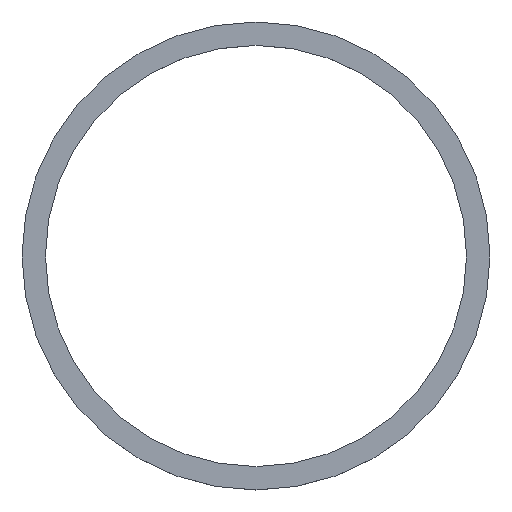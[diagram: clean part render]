
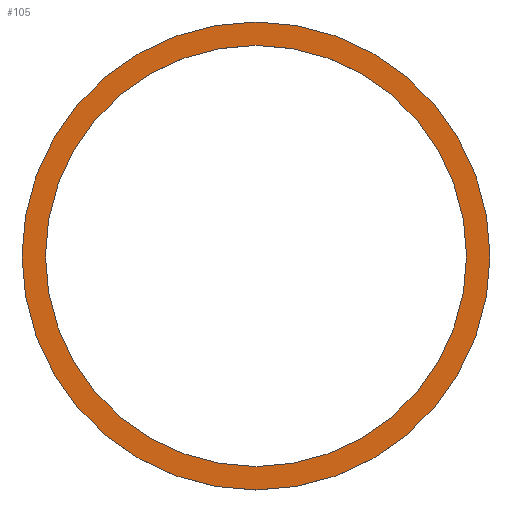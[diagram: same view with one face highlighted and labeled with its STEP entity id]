
A CAD part, top view. The second image highlights one B-rep face of the part: STEP entity #105.
In plain terms, the highlighted planar face has unit normal (0, 0, 1).
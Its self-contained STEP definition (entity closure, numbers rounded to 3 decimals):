
#21 = EDGE_CURVE('',#22,#22,#24,.T.);
#22 = VERTEX_POINT('',#23);
#23 = CARTESIAN_POINT('',(2.5,0.,2.7));
#24 = SURFACE_CURVE('',#25,(#30,#42),.PCURVE_S1.);
#25 = CIRCLE('',#26,2.5);
#26 = AXIS2_PLACEMENT_3D('',#27,#28,#29);
#27 = CARTESIAN_POINT('',(0.,0.,2.7));
#28 = DIRECTION('',(0.,0.,1.));
#29 = DIRECTION('',(1.,0.,-0.));
#30 = PCURVE('',#31,#36);
#31 = CYLINDRICAL_SURFACE('',#32,2.5);
#32 = AXIS2_PLACEMENT_3D('',#33,#34,#35);
#33 = CARTESIAN_POINT('',(0.,0.,2.5));
#34 = DIRECTION('',(0.,0.,1.));
#35 = DIRECTION('',(1.,0.,-0.));
#36 = DEFINITIONAL_REPRESENTATION('',(#37),#41);
#37 = LINE('',#38,#39);
#38 = CARTESIAN_POINT('',(0.,0.2));
#39 = VECTOR('',#40,1.);
#40 = DIRECTION('',(1.,0.));
#41 = ( GEOMETRIC_REPRESENTATION_CONTEXT(2) 
PARAMETRIC_REPRESENTATION_CONTEXT() REPRESENTATION_CONTEXT('2D SPACE',''
  ) );
#42 = PCURVE('',#43,#48);
#43 = PLANE('',#44);
#44 = AXIS2_PLACEMENT_3D('',#45,#46,#47);
#45 = CARTESIAN_POINT('',(0.,0.,2.7));
#46 = DIRECTION('',(0.,0.,1.));
#47 = DIRECTION('',(1.,0.,-0.));
#48 = DEFINITIONAL_REPRESENTATION('',(#49),#53);
#49 = CIRCLE('',#50,2.5);
#50 = AXIS2_PLACEMENT_2D('',#51,#52);
#51 = CARTESIAN_POINT('',(0.,0.));
#52 = DIRECTION('',(1.,0.));
#53 = ( GEOMETRIC_REPRESENTATION_CONTEXT(2) 
PARAMETRIC_REPRESENTATION_CONTEXT() REPRESENTATION_CONTEXT('2D SPACE',''
  ) );
#105 = ADVANCED_FACE('',(#106,#109),#43,.T.);
#106 = FACE_BOUND('',#107,.T.);
#107 = EDGE_LOOP('',(#108));
#108 = ORIENTED_EDGE('',*,*,#21,.T.);
#109 = FACE_BOUND('',#110,.T.);
#110 = EDGE_LOOP('',(#111));
#111 = ORIENTED_EDGE('',*,*,#112,.F.);
#112 = EDGE_CURVE('',#113,#113,#115,.T.);
#113 = VERTEX_POINT('',#114);
#114 = CARTESIAN_POINT('',(2.25,0.,2.7));
#115 = SURFACE_CURVE('',#116,(#121,#128),.PCURVE_S1.);
#116 = CIRCLE('',#117,2.25);
#117 = AXIS2_PLACEMENT_3D('',#118,#119,#120);
#118 = CARTESIAN_POINT('',(0.,0.,2.7));
#119 = DIRECTION('',(0.,0.,1.));
#120 = DIRECTION('',(1.,0.,-0.));
#121 = PCURVE('',#43,#122);
#122 = DEFINITIONAL_REPRESENTATION('',(#123),#127);
#123 = CIRCLE('',#124,2.25);
#124 = AXIS2_PLACEMENT_2D('',#125,#126);
#125 = CARTESIAN_POINT('',(0.,0.));
#126 = DIRECTION('',(1.,0.));
#127 = ( GEOMETRIC_REPRESENTATION_CONTEXT(2) 
PARAMETRIC_REPRESENTATION_CONTEXT() REPRESENTATION_CONTEXT('2D SPACE',''
  ) );
#128 = PCURVE('',#129,#134);
#129 = CYLINDRICAL_SURFACE('',#130,2.25);
#130 = AXIS2_PLACEMENT_3D('',#131,#132,#133);
#131 = CARTESIAN_POINT('',(0.,0.,2.49));
#132 = DIRECTION('',(0.,0.,1.));
#133 = DIRECTION('',(1.,0.,-0.));
#134 = DEFINITIONAL_REPRESENTATION('',(#135),#139);
#135 = LINE('',#136,#137);
#136 = CARTESIAN_POINT('',(0.,0.21));
#137 = VECTOR('',#138,1.);
#138 = DIRECTION('',(1.,0.));
#139 = ( GEOMETRIC_REPRESENTATION_CONTEXT(2) 
PARAMETRIC_REPRESENTATION_CONTEXT() REPRESENTATION_CONTEXT('2D SPACE',''
  ) );
